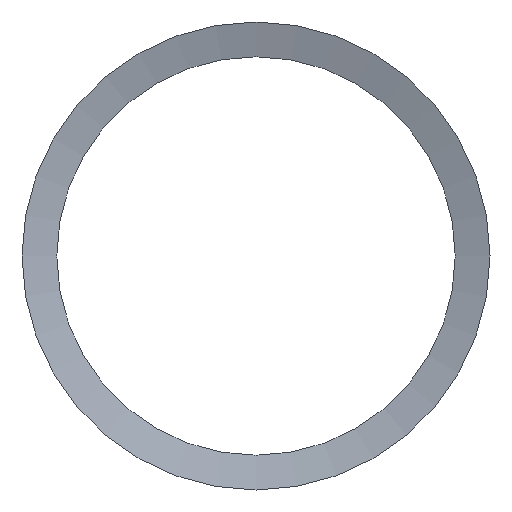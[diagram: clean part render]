
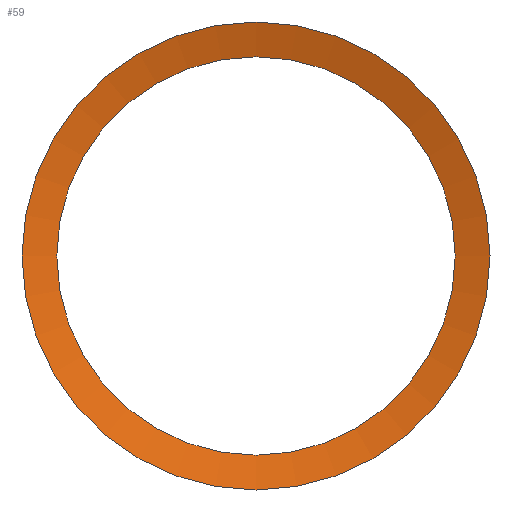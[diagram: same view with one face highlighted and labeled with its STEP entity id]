
A CAD part, front view. The second image highlights one B-rep face of the part: STEP entity #59.
In plain terms, the highlighted conical face has half-angle 75 degrees and reference radius 21.101 mm.
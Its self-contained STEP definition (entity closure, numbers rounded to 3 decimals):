
#13=CONICAL_SURFACE($,#69,21.101,75.);
#16=FACE_BOUND($,#27,.T.);
#20=FACE_OUTER_BOUND($,#26,.T.);
#26=EDGE_LOOP($,(#46));
#27=EDGE_LOOP($,(#47));
#31=CIRCLE($,#66,20.35);
#33=CIRCLE($,#70,23.9);
#35=VERTEX_POINT($,#94);
#37=VERTEX_POINT($,#100);
#39=EDGE_CURVE($,#35,#35,#31,.T.);
#41=EDGE_CURVE($,#37,#37,#33,.T.);
#46=ORIENTED_EDGE($,*,*,#39,.T.);
#47=ORIENTED_EDGE($,*,*,#41,.F.);
#59=ADVANCED_FACE($,(#20,#16),#13,.F.);
#66=AXIS2_PLACEMENT_3D($,#95,#78,#79);
#69=AXIS2_PLACEMENT_3D($,#99,#84,#85);
#70=AXIS2_PLACEMENT_3D($,#101,#86,#87);
#78=DIRECTION('center_axis',(0.,1.,0.));
#79=DIRECTION('ref_axis',(1.,0.,0.));
#84=DIRECTION('center_axis',(0.,-1.,0.));
#85=DIRECTION('ref_axis',(-1.,0.,0.));
#86=DIRECTION('center_axis',(0.,1.,0.));
#87=DIRECTION('ref_axis',(-1.,0.,0.));
#94=CARTESIAN_POINT('',(-20.35,-0.549,0.));
#95=CARTESIAN_POINT('Origin',(0.,-0.549,0.));
#99=CARTESIAN_POINT('Origin',(0.,-0.75,0.));
#100=CARTESIAN_POINT('',(-23.9,-1.5,0.));
#101=CARTESIAN_POINT('Origin',(0.,-1.5,0.));
